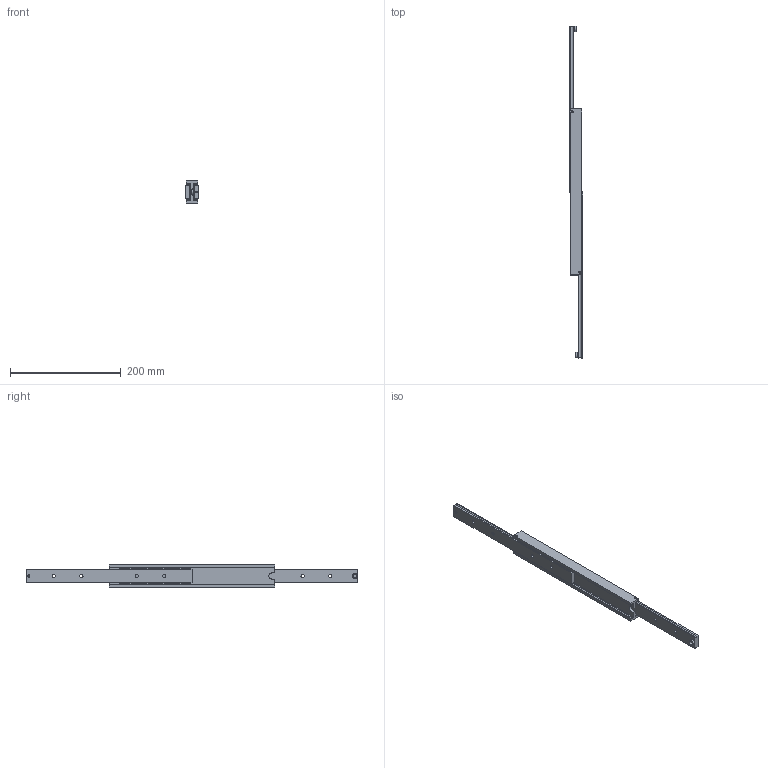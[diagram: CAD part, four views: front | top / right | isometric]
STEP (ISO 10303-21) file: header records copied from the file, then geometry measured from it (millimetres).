
FILE_DESCRIPTION(/* description */ (''),/* implementation_level */ '2;1');
FILE_NAME(/* name */ 'C:\Users\Miluxor\Desktop\Miluxor Schienen\Original Zeichnungen\Zeichnungen Schienen Komplett\MX-DTP40\MX-DTP40.030\MX-DTP40.030_ausgefahren.stp',/* time_stamp */ '2019-10-04T14:01:43+02:00',/* author */ ('Miluxor'),/* organization */ (''),/* preprocessor_version */ 'ST-DEVELOPER v16.13',/* originating_system */ 'AutoCAD Mechanical',/* authorisation */ '');
FILE_SCHEMA (('AUTOMOTIVE_DESIGN { 1 0 10303 214 3 1 1 }'));
Products named in the file (1): Product
Bounding box: 24 x 600 x 40.5 mm (x, y, z)
Volume: 226170.6 mm3; surface area: 114628 mm2
Topology: 41 solids, 41 shells, 362 faces, 920 edges, 608 vertices
Faces by surface type: plane 212, bspline 68, cylinder 48, sphere 20, cone 8, torus 6
Full cylindrical faces by diameter (mm): 4 x2, 6 x28, 10 x2
Entity records: 47863 total; most frequent: CARTESIAN_POINT 39833, ORIENTED_EDGE 1648, DIRECTION 1380, EDGE_CURVE 824, VERTEX_POINT 598, LINE 498, VECTOR 498, EDGE_LOOP 472
